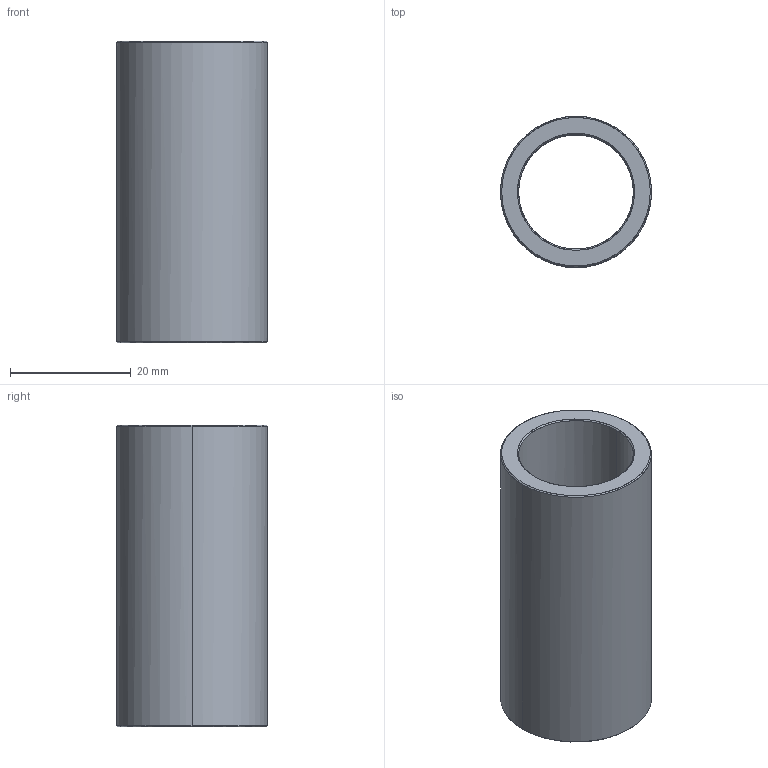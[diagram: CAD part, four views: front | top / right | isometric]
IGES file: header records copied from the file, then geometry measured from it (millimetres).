
Start section: Write IGES format                                    datakit 2008 (c)
Global section: file name: Unknown; native system: DATAKIT Converter; preprocessor: Unknown; author: Unknown; organization: Unknown; date: 950613.180003; units: millimetre
Bounding box: 25 x 25 x 50 mm (x, y, z)
Surface area: 7293.8 mm2 (no closed solid volume)
Topology: 0 solids, 0 shells, 14 faces, 56 edges, 56 vertices
Faces by surface type: revolution 12, bspline 2
